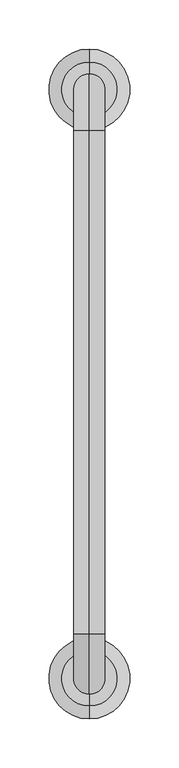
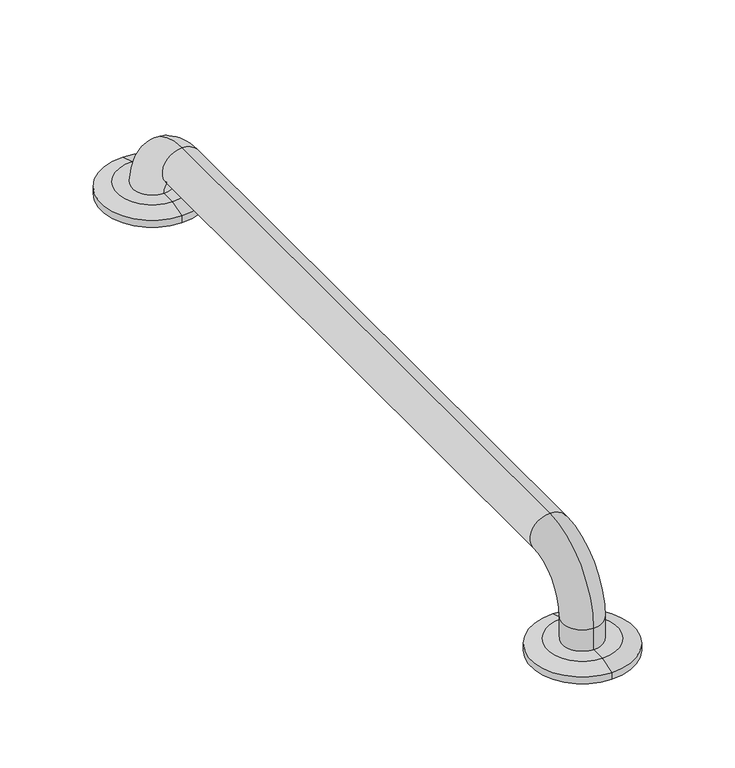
"""IFC4 building model written with IfcOpenShell, lengths in millimetres: flow terminal geometry, GrapBar-60cm-Vitra-OtherSeries-320-3010 : SupportRail-Vitra-OtherSeries-320-3010."""

import ifcopenshell
import ifcopenshell.guid

model = None  # the IFC model being written
_history = None  # IfcOwnerHistory: only IFC2X3 demands one
_inside = {}  # id of a spatial element -> (the spatial element, [elements in it])
_under = {}  # id of a project, library or spatial element -> (it, [spatial elements below it])
_declared = {}  # id of a project -> (the project, [libraries it declares])
_typed = {}  # id of a type object -> (the type object, [elements of that type])
_made_of = {}  # id of a material, layer set ... -> (it, [elements and type objects made of it])


def new_model(schema):
    """Start an empty IFC model of exactly this schema.

    Asked for "IFC4X3", IfcOpenShell would pick the latest addendum, in which some entities
    have other attributes; the version numbers below select the first issue.
    IFC2X3 requires an IfcOwnerHistory on every rooted entity: one is made here for all.
    """
    global model, _history
    if schema == "IFC4X3":
        model = ifcopenshell.file(schema_version=(4, 3, 0, 0))
    else:
        model = ifcopenshell.file(schema=schema)
    _inside.clear()
    _under.clear()
    _declared.clear()
    _typed.clear()
    _made_of.clear()
    _history = None
    if model.schema == "IFC2X3":
        org = make("IfcOrganization", Name="unknown")
        user = make(
            "IfcPersonAndOrganization",
            ThePerson=make("IfcPerson", FamilyName="unknown"),
            TheOrganization=org,
        )
        app = make(
            "IfcApplication",
            ApplicationDeveloper=org,
            Version="unknown",
            ApplicationFullName="unknown",
            ApplicationIdentifier="unknown",
        )
        _history = make(
            "IfcOwnerHistory",
            OwningUser=user,
            OwningApplication=app,
            ChangeAction="ADDED",
            CreationDate=0,
        )
    return model


def make(cls, **values):
    """One entity of the class cls with the attributes given. An attribute that is None is left unset."""
    return model.create_entity(
        cls, **{name: value for name, value in values.items() if value is not None}
    )


def rooted(cls, **values):
    """An entity with a GlobalId (a new one), such as an element, a storey or a relation."""
    return make(cls, GlobalId=ifcopenshell.guid.new(), OwnerHistory=_history, **values)


def si_unit(unit_type, name, prefix=None):
    """IfcSIUnit, for example si_unit("LENGTHUNIT", "METRE", prefix="MILLI")."""
    return make("IfcSIUnit", UnitType=unit_type, Prefix=prefix, Name=name)


def assignment(units):
    """IfcUnitAssignment: the units of a project."""
    return None if units is None else make("IfcUnitAssignment", Units=units)


def point(xyz):
    """IfcCartesianPoint."""
    return None if xyz is None else make("IfcCartesianPoint", Coordinates=xyz)


def direction(xyz):
    """IfcDirection."""
    return None if xyz is None else make("IfcDirection", DirectionRatios=xyz)


def frame(location, z_axis=None, x_axis=None):
    """IfcAxis2Placement3D, a coordinate frame: its origin and axes. An axis left out is left unset."""
    return make(
        "IfcAxis2Placement3D",
        Location=point(location),
        Axis=direction(z_axis),
        RefDirection=direction(x_axis),
    )


def origin():
    """The frame at (0, 0, 0) with its axes left unset."""
    return frame((0.0, 0.0, 0.0))


def place(relative_to, where):
    """IfcLocalPlacement: puts the frame where relative to a parent placement (None: the world)."""
    return make(
        "IfcLocalPlacement", PlacementRelTo=relative_to, RelativePlacement=where
    )


def context(
    kind, dimensions, precision=None, world=None, true_north=None, identifier=None
):
    """IfcGeometricRepresentationContext, for example the 3D "Model" context."""
    return make(
        "IfcGeometricRepresentationContext",
        ContextIdentifier=identifier,
        ContextType=kind,
        CoordinateSpaceDimension=dimensions,
        Precision=precision,
        WorldCoordinateSystem=world,
        TrueNorth=true_north,
    )


def project(units=None, contexts=None):
    """IfcProject with its units and contexts."""
    return rooted(
        "IfcProject",
        Name="project",
        RepresentationContexts=contexts,
        UnitsInContext=assignment(units),
    )


def spatial(cls, under=None, at=None, **own):
    """A site, building, storey or space (cls), placed at a placement, below another one or the project."""
    s = rooted(cls, ObjectPlacement=at, **own)
    if under is not None:
        _under.setdefault(under.id(), (under, []))[1].append(s)
    return s


def polyline(points):
    """IfcPolyline through the points."""
    return make("IfcPolyline", Points=[point(p) for p in points])


def circle_curve(where, radius):
    """IfcCircle in the frame where."""
    return make("IfcCircle", Position=where, Radius=radius)


def ellipse_curve(where, semi_axis1, semi_axis2):
    """IfcEllipse in the frame where."""
    return make(
        "IfcEllipse", Position=where, SemiAxis1=semi_axis1, SemiAxis2=semi_axis2
    )


def trimmed(basis, trim1, trim2, sense, master):
    """IfcTrimmedCurve: the piece of a basis curve between two trims."""
    return make(
        "IfcTrimmedCurve",
        BasisCurve=basis,
        Trim1=trim1,
        Trim2=trim2,
        SenseAgreement=sense,
        MasterRepresentation=master,
    )


def shape(context_of_items, identifier, shape_type, items):
    """IfcShapeRepresentation: the items that make up one representation, for example the "Body"."""
    return make(
        "IfcShapeRepresentation",
        ContextOfItems=context_of_items,
        RepresentationIdentifier=identifier,
        RepresentationType=shape_type,
        Items=items,
    )


def source(mapping_origin, context_of_items, identifier, shape_type, items):
    """IfcRepresentationMap: a shape defined once, which mapped items show again and again."""
    return make(
        "IfcRepresentationMap",
        MappingOrigin=mapping_origin,
        MappedRepresentation=shape(context_of_items, identifier, shape_type, items),
    )


def transform(
    local_origin,
    x_axis=None,
    y_axis=None,
    z_axis=None,
    scale=None,
    scale2=None,
    scale3=None,
    uniform=True,
):
    """IfcCartesianTransformationOperator3D, or its non-uniform kind. x_axis, y_axis, z_axis: its Axis1, 2, 3."""
    if uniform:
        return make(
            "IfcCartesianTransformationOperator3D",
            Axis1=direction(x_axis),
            Axis2=direction(y_axis),
            LocalOrigin=point(local_origin),
            Scale=scale,
            Axis3=direction(z_axis),
        )
    return make(
        "IfcCartesianTransformationOperator3DnonUniform",
        Axis1=direction(x_axis),
        Axis2=direction(y_axis),
        LocalOrigin=point(local_origin),
        Scale=scale,
        Axis3=direction(z_axis),
        Scale2=scale2,
        Scale3=scale3,
    )


def mapped(mapping_source, mapping_target):
    """IfcMappedItem: shows the shape of a source again, moved by a transform."""
    return make(
        "IfcMappedItem", MappingSource=mapping_source, MappingTarget=mapping_target
    )


def made_of(thing, what):
    """Note that an element or type object is made of a material, layer set ...; save() writes the relation."""
    if what is not None:
        _made_of.setdefault(what.id(), (what, []))[1].append(thing)
    return thing


def element(
    cls,
    number,
    at=None,
    inside=None,
    cuts=None,
    type_object=None,
    material=None,
    context=None,
    identifier="Body",
    shape_type=None,
    held_by="IfcProductDefinitionShape",
    body=None,
    shapes=None,
    **own,
):
    """One element of the class cls, such as IfcWall. Its Tag is "e" and its number.

    at: its placement. inside: the storey or other place that contains it. cuts: it is an
    opening in that element (IfcRelVoidsElement). A single representation is given by context,
    identifier, shape_type and body (its items); several are given by shapes. held_by: the class
    of the entity that holds the representations. save() writes the other relations.
    """
    e = rooted(cls, Tag="e%d" % number, ObjectPlacement=at, **own)
    if body is not None:
        shapes = [shape(context, identifier, shape_type, body)]
    if shapes is not None:
        e.Representation = make(held_by, Representations=shapes)
    if inside is not None:
        _inside.setdefault(inside.id(), (inside, []))[1].append(e)
    if cuts is not None:
        rooted(
            "IfcRelVoidsElement", RelatingBuildingElement=cuts, RelatedOpeningElement=e
        )
    if type_object is not None:
        _typed.setdefault(type_object.id(), (type_object, []))[1].append(e)
    return made_of(e, material)


def aggregate(whole, parts):
    """IfcRelAggregates: a whole, such as a stair, and the parts it consists of."""
    return rooted("IfcRelAggregates", RelatingObject=whole, RelatedObjects=parts)


def save(model, path):
    """Write the relations noted so far, then the file.

    IfcRelAggregates (storeys below a building ...), IfcRelContainedInSpatialStructure (elements
    in a storey), IfcRelDefinesByType, IfcRelAssociatesMaterial and IfcRelDeclares: one each for
    every whole, place, type object, material and project.
    """
    for whole, parts in _under.values():
        aggregate(whole, parts)
    for where, things in _inside.values():
        rooted(
            "IfcRelContainedInSpatialStructure",
            RelatedElements=things,
            RelatingStructure=where,
        )
    for kind, things in _typed.values():
        rooted("IfcRelDefinesByType", RelatedObjects=things, RelatingType=kind)
    for what, things in _made_of.values():
        rooted("IfcRelAssociatesMaterial", RelatedObjects=things, RelatingMaterial=what)
    for by, libraries in _declared.values():
        rooted("IfcRelDeclares", RelatingContext=by, RelatedDefinitions=libraries)
    model.write(path)


def plane_surface(at):
    """IfcPlane: the flat surface through the origin of the frame at, square to its z axis."""
    return make("IfcPlane", Position=at)


def cylinder_surface(at, radius):
    """IfcCylindricalSurface: all points at the distance radius from the z axis of the frame at."""
    return make("IfcCylindricalSurface", Position=at, Radius=radius)


def revolved_surface(curve, axis_point, axis_direction):
    """IfcSurfaceOfRevolution: the curve turned about the line through axis_point along axis_direction."""
    return make(
        "IfcSurfaceOfRevolution",
        SweptCurve=make("IfcArbitraryOpenProfileDef", ProfileType="CURVE", Curve=curve),
        AxisPosition=make("IfcAxis1Placement", Location=point(axis_point), Axis=direction(axis_direction)),
    )


def advanced_brep(points, edges, surfaces, faces):
    """IfcAdvancedBrep: a solid bounded by faces that lie on surfaces and meet in shared edges.

    An edge is (start, end): straight between two places in points (the first is 0);
    or (start, end, curve); or (start, end, curve, False) where it runs against its curve.
    A face is (place in surfaces, loops), or (place, loops, False) where it looks against
    its surface's normal. A loop lists edges by number (the first is 1), with a minus sign
    where the edge is run from its end to its start. The first loop is the outer one.
    """
    corners = [point(p) for p in points]
    vertices = [make("IfcVertexPoint", VertexGeometry=c) for c in corners]
    made = []
    for start, end, *more in edges:
        made.append(
            make(
                "IfcEdgeCurve",
                EdgeStart=vertices[start],
                EdgeEnd=vertices[end],
                EdgeGeometry=more[0] if more else make("IfcPolyline", Points=[corners[start], corners[end]]),
                SameSense=more[1] if len(more) > 1 else True,
            )
        )
    hull = []
    for where, loops, *sense in faces:
        bounds = []
        for j, loop in enumerate(loops):
            ring = [make("IfcOrientedEdge", EdgeElement=made[abs(k) - 1], Orientation=k > 0) for k in loop]
            bounds.append(
                make(
                    "IfcFaceOuterBound" if j == 0 else "IfcFaceBound",
                    Bound=make("IfcEdgeLoop", EdgeList=ring),
                    Orientation=True,
                )
            )
        hull.append(make("IfcAdvancedFace", Bounds=bounds, FaceSurface=surfaces[where], SameSense=sense[0] if sense else True))
    return make("IfcAdvancedBrep", Outer=make("IfcClosedShell", CfsFaces=hull))


def flow_terminal_ec843122(model_context):
    return source(origin(), model_context, "Body", "AdvancedBrep", [
        advanced_brep(
        [(-1.6, -271.9462683, 10.05625), (-1.6, -328.0537317, 10.05625), (-1.6, -316.0, 10.05625), (-1.6, -284.0, 10.05625), (-1.6, -258.7462683, 5.8762664), (-1.6, -341.2537317, 5.8762664), (-1.6, -258.7462683, 0.05625), (-1.6, -341.2537317, 0.05625), (-1.6, -300.0, 0.05625), (-1.6, -284.0, 28.2511186), (-1.6, -316.0, 28.2511186), (-1.6, -255.0, 57.2511186), (-1.6, -255.0, 89.2511186), (-1.6, 258.0, 57.2511186), (-1.6, 258.0, 89.2511186), (-1.6, 284.0718819, 33.5413066), (-1.6, 315.9281181, 36.5711934)],
        [
            (0, 1, circle_curve(frame((-1.6, -300.0, 10.05625), z_axis=(0.0, 0.0, 1.0), x_axis=(0.0, -1.0, 0.0)), 28.0537317)),
            (1, 2),
            (2, 3, circle_curve(frame((-1.6, -300.0, 10.05625), z_axis=(0.0, 0.0, -1.0), x_axis=(0.0, -1.0, 0.0)), 16.0)),
            (3, 0),
            (1, 0, circle_curve(frame((-1.6, -300.0, 10.05625), z_axis=(0.0, 0.0, 1.0), x_axis=(0.0, -1.0, 0.0)), 28.0537317)),
            (3, 2, circle_curve(frame((-1.6, -300.0, 10.05625), z_axis=(0.0, 0.0, -1.0), x_axis=(0.0, -1.0, 0.0)), 16.0)),
            (0, 4),
            (4, 5, circle_curve(frame((-1.6, -300.0, 5.8762664), z_axis=(0.0, 0.0, 1.0), x_axis=(0.0, -1.0, 0.0)), 41.2537317)),
            (5, 1),
            (5, 4, circle_curve(frame((-1.6, -300.0, 5.8762664), z_axis=(0.0, 0.0, 1.0), x_axis=(0.0, -1.0, 0.0)), 41.2537317)),
            (4, 6),
            (6, 7, circle_curve(frame((-1.6, -300.0, 0.05625), z_axis=(0.0, 0.0, 1.0), x_axis=(0.0, -1.0, 0.0)), 41.2537317)),
            (7, 5),
            (7, 6, circle_curve(frame((-1.6, -300.0, 0.05625), z_axis=(0.0, 0.0, 1.0), x_axis=(0.0, -1.0, 0.0)), 41.2537317)),
            (6, 8),
            (8, 7),
            (3, 9),
            (9, 10, circle_curve(frame((-1.6, -300.0, 28.2511186), z_axis=(0.0, 0.0, -1.0), x_axis=(0.0, -1.0, 0.0)), 16.0)),
            (10, 2),
            (10, 9, circle_curve(frame((-1.6, -300.0, 28.2511186), z_axis=(0.0, 0.0, -1.0), x_axis=(0.0, -1.0, 0.0)), 16.0)),
            (9, 11, circle_curve(frame((-1.6, -255.0, 28.2511186), z_axis=(-1.0, 0.0, 0.0), x_axis=(0.0, -1.0, 0.0)), 29.0)),
            (11, 12, circle_curve(frame((-1.6, -255.0, 73.2511186), z_axis=(0.0, -1.0, 0.0), x_axis=(0.0, 0.0, 1.0)), 16.0)),
            (12, 10, circle_curve(frame((-1.6, -255.0, 28.2511186), z_axis=(1.0, 0.0, 0.0), x_axis=(0.0, -1.0, 0.0)), 61.0)),
            (12, 11, circle_curve(frame((-1.6, -255.0, 73.2511186), z_axis=(0.0, -1.0, 0.0), x_axis=(0.0, 0.0, 1.0)), 16.0)),
            (11, 13),
            (13, 14, circle_curve(frame((-1.6, 258.0, 73.2511186), z_axis=(0.0, -1.0, 0.0), x_axis=(0.0, 0.0, 1.0)), 16.0)),
            (14, 12),
            (14, 13, circle_curve(frame((-1.6, 258.0, 73.2511186), z_axis=(0.0, -1.0, 0.0), x_axis=(0.0, 0.0, 1.0)), 16.0)),
            (15, 16, circle_curve(frame((-1.6, 300.0, 35.05625), z_axis=(0.0, 0.09468396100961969, -0.9955073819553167), x_axis=(0.0, 0.9955073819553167, 0.09468396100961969)), 16.0)),
            (16, 15, circle_curve(frame((-1.6, 300.0, 35.05625), z_axis=(0.0, 0.09468396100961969, -0.9955073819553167), x_axis=(0.0, 0.9955073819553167, 0.09468396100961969)), 16.0)),
            (13, 15, circle_curve(frame((-1.6, 258.0, 31.0615771), z_axis=(-1.0, 0.0, 0.0), x_axis=(0.0, 0.0, 1.0)), 26.1895415)),
            (16, 14, circle_curve(frame((-1.6, 258.0, 31.0615771), z_axis=(1.0, 0.0, 0.0), x_axis=(0.0, 0.0, 1.0)), 58.1895415)),
        ],
        [
            plane_surface(frame((-1.6, -300.0, 10.05625), z_axis=(0.0, 0.0, 1.0), x_axis=(0.0, -1.0, 0.0))),
            revolved_surface(polyline([(-1.6, -328.0537317, 10.05625), (-1.6, -341.2537317, 5.8762664)]), (-1.6, -300.0, 0.05625), (0.0, 0.0, -1.0)),
            cylinder_surface(frame((-1.6, -300.0, 0.05625), z_axis=(0.0, 0.0, -1.0), x_axis=(0.0, -1.0, 0.0)), 41.2537317),
            plane_surface(frame((-1.6, -300.0, 0.05625), z_axis=(0.0, 0.0, -1.0), x_axis=(0.0, -1.0, 0.0))),
            cylinder_surface(frame((-1.6, -300.0, 10.05625), z_axis=(0.0, 0.0, -1.0), x_axis=(0.0, -1.0, 0.0)), 16.0),
            revolved_surface(trimmed(ellipse_curve(frame((-1.6, -300.0, 28.2511186), z_axis=(0.0, 0.0, -1.0), x_axis=(0.0, -1.0, 0.0)), 16.0, 16.0), [point((-1.6, -284.0, 28.2511186))], [point((-1.6, -316.0, 28.2511186))], True, "CARTESIAN"), (-1.6, -255.0, 28.2511186), (-1.0, 0.0, 0.0)),
            revolved_surface(trimmed(ellipse_curve(frame((-1.6, -300.0, 28.2511186), z_axis=(0.0, 0.0, -1.0), x_axis=(0.0, -1.0, 0.0)), 16.0, 16.0), [point((-1.6, -316.0, 28.2511186))], [point((-1.6, -284.0, 28.2511186))], True, "CARTESIAN"), (-1.6, -255.0, 28.2511186), (-1.0, 0.0, 0.0)),
            cylinder_surface(frame((-1.6, -255.0, 73.2511186), z_axis=(0.0, -1.0, 0.0), x_axis=(0.0, 0.0, 1.0)), 16.0),
            plane_surface(frame((-1.6, 300.0, 35.05625), z_axis=(0.0, 0.09468396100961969, -0.9955073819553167), x_axis=(1.0, 0.0, 0.0))),
            revolved_surface(trimmed(ellipse_curve(frame((-1.6, 258.0, 73.2511186), z_axis=(0.0, -1.0, 0.0), x_axis=(0.0, 0.0, 1.0)), 16.0, 16.0), [point((-1.6, 258.0, 57.2511186))], [point((-1.6, 258.0, 89.2511186))], True, "CARTESIAN"), (-1.6, 258.0, 31.0615771), (-1.0, 0.0, 0.0)),
            revolved_surface(trimmed(ellipse_curve(frame((-1.6, 258.0, 73.2511186), z_axis=(0.0, -1.0, 0.0), x_axis=(0.0, 0.0, 1.0)), 16.0, 16.0), [point((-1.6, 258.0, 89.2511186))], [point((-1.6, 258.0, 57.2511186))], True, "CARTESIAN"), (-1.6, 258.0, 31.0615771), (-1.0, 0.0, 0.0)),
        ],
        [
            (0, [[1, 2, 3, 4]]),
            (0, [[5, -4, 6, -2]]),
            (1, [[-1, 7, 8, 9]]),
            (1, [[-5, -9, 10, -7]]),
            (2, [[-8, 11, 12, 13]]),
            (2, [[-10, -13, 14, -11]]),
            (3, [[-12, 15, 16]]),
            (3, [[-14, -16, -15]]),
            (4, [[17, 18, 19, -6]]),
            (4, [[-17, -3, -19, 20]]),
            (5, [[-18, 21, 22, 23]]),
            (6, [[-20, -23, 24, -21]]),
            (7, [[-22, 25, 26, 27]]),
            (7, [[-24, -27, 28, -25]]),
            (8, [[29, 30]]),
            (9, [[-26, 31, -30, 32]]),
            (10, [[-28, -32, -29, -31]]),
        ],
    ),
        advanced_brep(
        [(-1.6, 328.0537317, 35.05625), (-1.6, 271.9462683, 35.05625), (-1.6, 300.0, 35.05625), (-1.6, 341.2537317, 30.8762664), (-1.6, 258.7462683, 30.8762664), (-1.6, 341.2537317, 25.05625), (-1.6, 258.7462683, 25.05625), (-1.6, 300.0, 25.05625)],
        [
            (0, 1, circle_curve(frame((-1.6, 300.0, 35.05625), z_axis=(0.0, 0.0, 1.0), x_axis=(0.0, -1.0, 0.0)), 28.0537317)),
            (1, 2),
            (2, 0),
            (1, 0, circle_curve(frame((-1.6, 300.0, 35.05625), z_axis=(0.0, 0.0, 1.0), x_axis=(0.0, -1.0, 0.0)), 28.0537317)),
            (3, 4, circle_curve(frame((-1.6, 300.0, 30.8762664), z_axis=(0.0, 0.0, 1.0), x_axis=(0.0, -1.0, 0.0)), 41.2537317)),
            (4, 1),
            (0, 3),
            (4, 3, circle_curve(frame((-1.6, 300.0, 30.8762664), z_axis=(0.0, 0.0, 1.0), x_axis=(0.0, -1.0, 0.0)), 41.2537317)),
            (5, 6, circle_curve(frame((-1.6, 300.0, 25.05625), z_axis=(0.0, 0.0, 1.0), x_axis=(0.0, -1.0, 0.0)), 41.2537317)),
            (6, 4),
            (3, 5),
            (6, 5, circle_curve(frame((-1.6, 300.0, 25.05625), z_axis=(0.0, 0.0, 1.0), x_axis=(0.0, -1.0, 0.0)), 41.2537317)),
            (7, 6),
            (5, 7),
        ],
        [
            plane_surface(frame((-1.6, 300.0, 35.05625), z_axis=(0.0, 0.0, 1.0), x_axis=(0.0, -1.0, 0.0))),
            revolved_surface(polyline([(-1.6, 271.9462683, 35.05625), (-1.6, 258.7462683, 30.8762664)]), (-1.6, 300.0, 25.05625), (0.0, 0.0, -1.0)),
            cylinder_surface(frame((-1.6, 300.0, 25.05625), z_axis=(0.0, 0.0, -1.0), x_axis=(0.0, -1.0, 0.0)), 41.2537317),
            plane_surface(frame((-1.6, 300.0, 25.05625), z_axis=(0.0, 0.0, -1.0), x_axis=(0.0, -1.0, 0.0))),
        ],
        [
            (0, [[1, 2, 3]]),
            (0, [[4, -3, -2]]),
            (1, [[5, 6, -1, 7]]),
            (1, [[8, -7, -4, -6]]),
            (2, [[9, 10, -5, 11]]),
            (2, [[12, -11, -8, -10]]),
            (3, [[13, -9, 14]]),
            (3, [[-14, -12, -13]]),
        ],
    ),
    ])


if __name__ == "__main__":
    model = new_model("IFC4")
    model_context = context("Model", 3, world=origin())
    ifc_project = project(units=[si_unit("LENGTHUNIT", "METRE", prefix="MILLI")], contexts=[model_context])
    site = spatial("IfcSite", under=ifc_project)
    building = spatial("IfcBuilding", under=site)
    placement = place(None, origin())
    flow_terminal_shape = flow_terminal_ec843122(model_context)
    element("IfcFlowTerminal", 1, ObjectType="GrapBar-60cm-Vitra-OtherSeries-320-3010 : SupportRail-Vitra-OtherSeries-320-3010", at=placement, inside=building, context=model_context, shape_type="MappedRepresentation", body=[
        mapped(flow_terminal_shape, transform((0.0, 0.0, 0.0), x_axis=(1.0, 0.0, 0.0), y_axis=(0.0, 1.0, 0.0), z_axis=(0.0, 0.0, 1.0))),
    ])
    save(model, "model.ifc")
